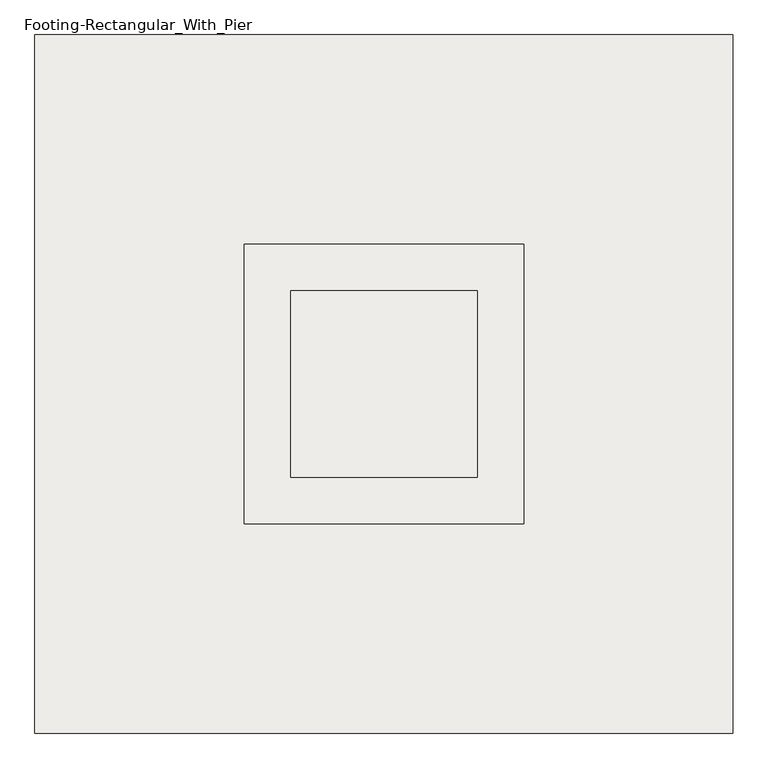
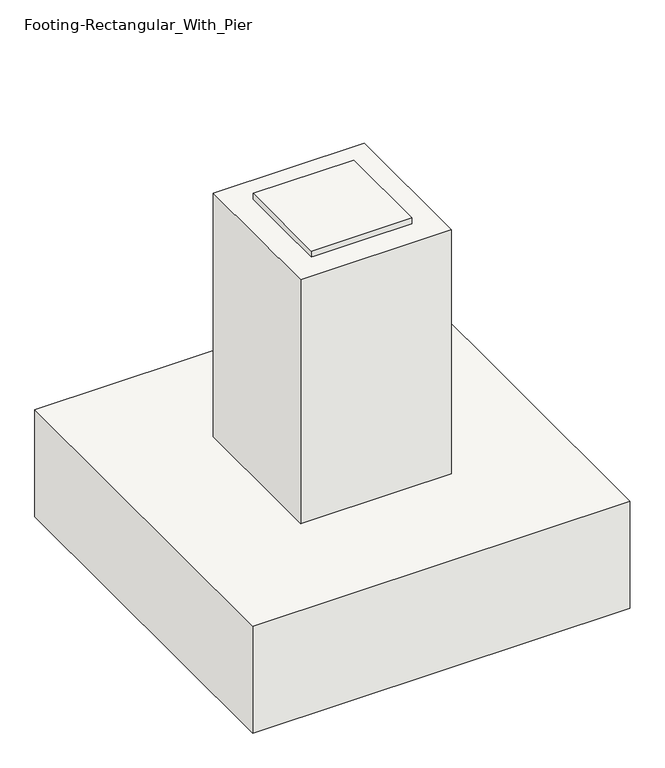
"""IFC4 building model written with IfcOpenShell, lengths in millimetres: slab geometry."""

from ifc_helpers import new_model, si_unit, frame, origin, origin_with_axes, place, context, project, spatial, polyline, outline, extrude, source, transform, mapped, element, save


def footing_rectangular_with_pier_073162b1(model_context):
    return source(origin(), model_context, "Body", "SweptSolid", [
        extrude(outline(polyline([(203.2, 203.2), (203.2, -203.2), (-203.2, -203.2), (-203.2, 203.2), (203.2, 203.2)])), frame((0.0, 0.0, 1041.4), z_axis=(0.0, 0.0, 1.0), x_axis=(1.0, 0.0, 0.0)), (0.0, 0.0, 1.0), 25.4),
        extrude(outline(polyline([(304.8, 304.8), (304.8, -304.8), (-304.8, -304.8), (-304.8, 304.8), (304.8, 304.8)])), origin_with_axes(), (0.0, 0.0, 1.0), 1041.4),
        extrude(outline(polyline([(762.0, 762.0), (762.0, -762.0), (-762.0, -762.0), (-762.0, 762.0), (762.0, 762.0)])), frame((0.0, 0.0, -457.2), z_axis=(0.0, 0.0, 1.0), x_axis=(1.0, 0.0, 0.0)), (0.0, 0.0, 1.0), 457.2),
    ])


if __name__ == "__main__":
    model = new_model("IFC4")
    model_context = context("Model", 3, world=origin())
    ifc_project = project(units=[si_unit("LENGTHUNIT", "METRE", prefix="MILLI")], contexts=[model_context])
    site = spatial("IfcSite", under=ifc_project)
    building = spatial("IfcBuilding", under=site)
    placement = place(None, origin())
    footing_rectangular_with_pier_shape = footing_rectangular_with_pier_073162b1(model_context)
    element("IfcSlab", 1, ObjectType="Footing-Rectangular_With_Pier : F8 - 5'-0\" x 5'-0\" x 1'-6\" 2", at=placement, inside=building, context=model_context, shape_type="MappedRepresentation", body=[
        mapped(footing_rectangular_with_pier_shape, transform((0.0, 0.0, 0.0), x_axis=(1.0, 0.0, 0.0), y_axis=(0.0, 1.0, 0.0), z_axis=(0.0, 0.0, 1.0))),
    ])
    save(model, "model.ifc")
